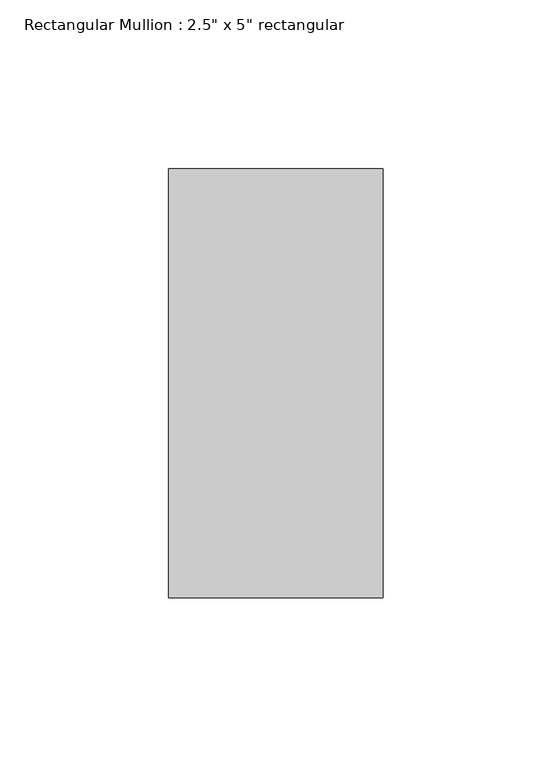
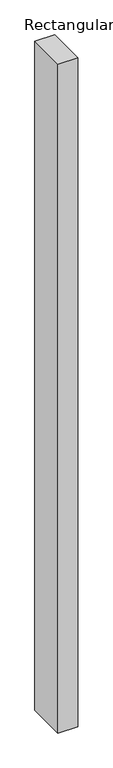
"""IFC4 building model written with IfcOpenShell, lengths in millimetres: member geometry."""

from ifc_helpers import new_model, si_unit, frame, origin, place, context, project, spatial, polyline, outline, extrude, source, transform, mapped, element, save


def member_efd07658(model_context):
    return source(origin(), model_context, "Body", "SweptSolid", [
        extrude(outline(polyline([(31.75, 63.5), (31.75, -63.5), (-31.75, -63.5), (-31.75, 63.5), (31.75, 63.5)])), frame((0.0, 0.0, -2260.6), z_axis=(0.0, 0.0, 1.0), x_axis=(1.0, 0.0, 0.0)), (0.0, 0.0, 1.0), 2260.6),
    ])


if __name__ == "__main__":
    model = new_model("IFC4")
    model_context = context("Model", 3, world=origin())
    ifc_project = project(units=[si_unit("LENGTHUNIT", "METRE", prefix="MILLI")], contexts=[model_context])
    site = spatial("IfcSite", under=ifc_project)
    building = spatial("IfcBuilding", under=site)
    placement = place(None, origin())
    member_shape = member_efd07658(model_context)
    element("IfcMember", 1, ObjectType="Rectangular Mullion : 2.5\" x 5\" rectangular", at=placement, inside=building, context=model_context, shape_type="MappedRepresentation", body=[
        mapped(member_shape, transform((0.0, 0.0, 0.0), x_axis=(1.0, 0.0, 0.0), y_axis=(0.0, 1.0, 0.0), z_axis=(0.0, 0.0, 1.0))),
    ])
    save(model, "model.ifc")
